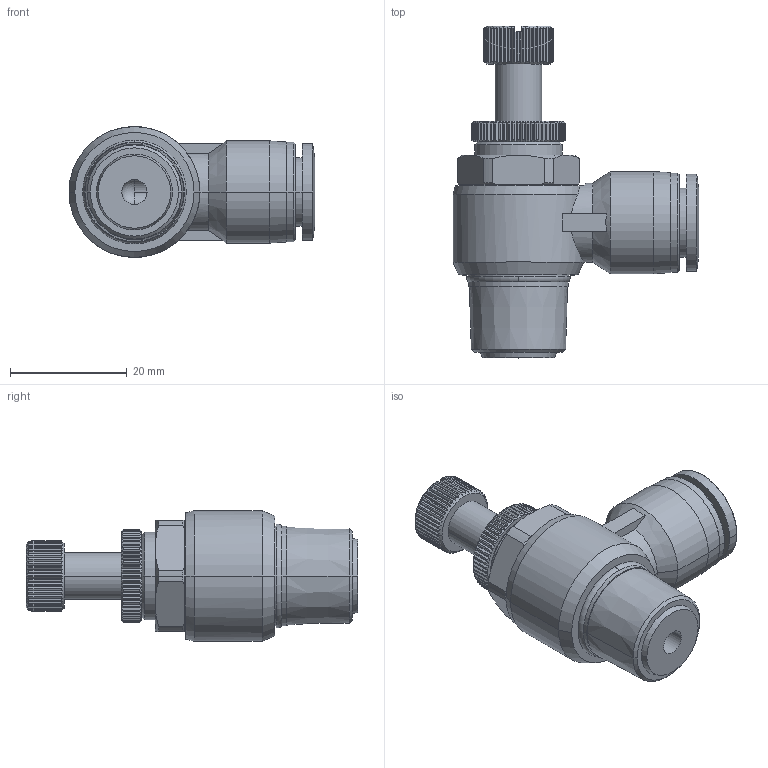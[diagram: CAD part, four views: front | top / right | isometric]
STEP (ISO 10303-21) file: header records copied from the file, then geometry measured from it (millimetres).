
FILE_DESCRIPTION (( 'STEP AP203' ), '1' );
FILE_NAME ('SCL10-03.STEP', '2020-05-12T15:37:32', ( '' ), ( '' ), 'SwSTEP 2.0', 'SolidWorks 2019', '' );
FILE_SCHEMA (( 'CONFIG_CONTROL_DESIGN' ));
Length unit declared in the file: millimetre
Products named in the file (1): SCL10-03
Bounding box: 42.1 x 56.8 x 22.4 mm (x, y, z)
Volume: 14912.3 mm3; surface area: 6370.3 mm2
Topology: 1 solids, 1 shells, 569 faces, 1388 edges, 833 vertices
Faces by surface type: plane 255, cone 161, cylinder 146, torus 4, bspline 2, sphere 1
Entity records: 16306 total; most frequent: CARTESIAN_POINT 3993, ORIENTED_EDGE 2774, DIRECTION 2532, EDGE_CURVE 1387, AXIS2_PLACEMENT_3D 1050, VERTEX_POINT 833, EDGE_LOOP 584, ADVANCED_FACE 569
